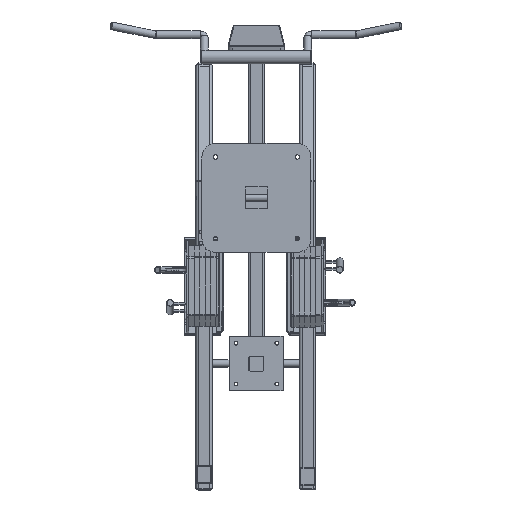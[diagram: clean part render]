
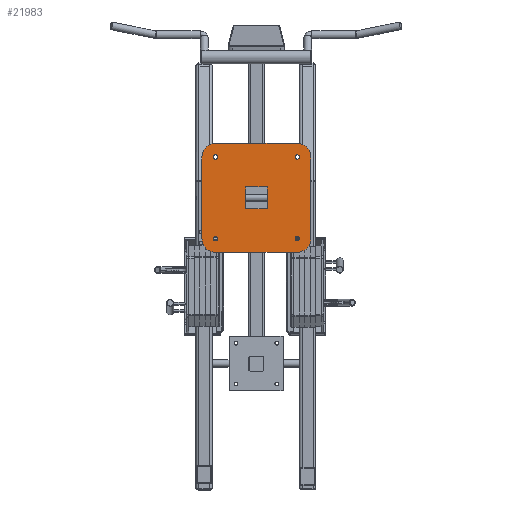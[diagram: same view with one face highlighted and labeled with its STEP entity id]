
A CAD part, front view. The second image highlights one B-rep face of the part: STEP entity #21983.
In plain terms, the highlighted planar face has unit normal (0, -1, 0).
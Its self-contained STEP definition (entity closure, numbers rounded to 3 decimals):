
#472=FACE_BOUND('',#3193,.T.);
#473=FACE_BOUND('',#3194,.T.);
#474=FACE_BOUND('',#3195,.T.);
#475=FACE_BOUND('',#3196,.T.);
#476=FACE_BOUND('',#3197,.T.);
#854=PLANE('',#23895);
#1797=FACE_OUTER_BOUND('',#3192,.T.);
#3192=EDGE_LOOP('',(#17161,#17162,#17163,#17164,#17165,#17166,#17167,#17168));
#3193=EDGE_LOOP('',(#17169));
#3194=EDGE_LOOP('',(#17170));
#3195=EDGE_LOOP('',(#17171,#17172,#17173,#17174));
#3196=EDGE_LOOP('',(#17175));
#3197=EDGE_LOOP('',(#17176));
#4874=LINE('',#35009,#6876);
#4880=LINE('',#35022,#6882);
#4884=LINE('',#35031,#6886);
#4891=LINE('',#35060,#6893);
#4894=LINE('',#35074,#6896);
#4895=LINE('',#35076,#6897);
#4896=LINE('',#35078,#6898);
#4897=LINE('',#35079,#6899);
#6876=VECTOR('',#28176,300.);
#6882=VECTOR('',#28184,300.);
#6886=VECTOR('',#28190,300.);
#6893=VECTOR('',#28217,300.);
#6896=VECTOR('',#28234,80.);
#6897=VECTOR('',#28235,80.);
#6898=VECTOR('',#28236,80.);
#6899=VECTOR('',#28237,80.);
#8577=CIRCLE('',#23896,50.);
#8578=CIRCLE('',#23897,50.);
#8579=CIRCLE('',#23898,50.);
#8580=CIRCLE('',#23899,50.);
#8581=CIRCLE('',#23900,8.);
#8582=CIRCLE('',#23901,8.);
#8583=CIRCLE('',#23902,8.);
#8584=CIRCLE('',#23903,8.);
#10059=VERTEX_POINT('',#35007);
#10060=VERTEX_POINT('',#35008);
#10065=VERTEX_POINT('',#35019);
#10066=VERTEX_POINT('',#35021);
#10069=VERTEX_POINT('',#35028);
#10070=VERTEX_POINT('',#35030);
#10081=VERTEX_POINT('',#35058);
#10082=VERTEX_POINT('',#35059);
#10083=VERTEX_POINT('',#35068);
#10084=VERTEX_POINT('',#35070);
#10085=VERTEX_POINT('',#35072);
#10086=VERTEX_POINT('',#35073);
#10087=VERTEX_POINT('',#35075);
#10088=VERTEX_POINT('',#35077);
#10089=VERTEX_POINT('',#35080);
#10090=VERTEX_POINT('',#35082);
#12582=EDGE_CURVE('',#10059,#10060,#4874,.T.);
#12588=EDGE_CURVE('',#10065,#10066,#4880,.T.);
#12592=EDGE_CURVE('',#10070,#10069,#4884,.T.);
#12607=EDGE_CURVE('',#10081,#10082,#4891,.T.);
#12610=EDGE_CURVE('',#10060,#10082,#8577,.T.);
#12611=EDGE_CURVE('',#10081,#10066,#8578,.T.);
#12612=EDGE_CURVE('',#10065,#10070,#8579,.T.);
#12613=EDGE_CURVE('',#10069,#10059,#8580,.T.);
#12614=EDGE_CURVE('',#10083,#10083,#8581,.T.);
#12615=EDGE_CURVE('',#10084,#10084,#8582,.T.);
#12616=EDGE_CURVE('',#10085,#10086,#4894,.T.);
#12617=EDGE_CURVE('',#10087,#10085,#4895,.T.);
#12618=EDGE_CURVE('',#10088,#10087,#4896,.T.);
#12619=EDGE_CURVE('',#10086,#10088,#4897,.T.);
#12620=EDGE_CURVE('',#10089,#10089,#8583,.T.);
#12621=EDGE_CURVE('',#10090,#10090,#8584,.T.);
#17161=ORIENTED_EDGE('',*,*,#12582,.T.);
#17162=ORIENTED_EDGE('',*,*,#12610,.T.);
#17163=ORIENTED_EDGE('',*,*,#12607,.F.);
#17164=ORIENTED_EDGE('',*,*,#12611,.T.);
#17165=ORIENTED_EDGE('',*,*,#12588,.F.);
#17166=ORIENTED_EDGE('',*,*,#12612,.T.);
#17167=ORIENTED_EDGE('',*,*,#12592,.T.);
#17168=ORIENTED_EDGE('',*,*,#12613,.T.);
#17169=ORIENTED_EDGE('',*,*,#12614,.F.);
#17170=ORIENTED_EDGE('',*,*,#12615,.F.);
#17171=ORIENTED_EDGE('',*,*,#12616,.F.);
#17172=ORIENTED_EDGE('',*,*,#12617,.F.);
#17173=ORIENTED_EDGE('',*,*,#12618,.F.);
#17174=ORIENTED_EDGE('',*,*,#12619,.F.);
#17175=ORIENTED_EDGE('',*,*,#12620,.F.);
#17176=ORIENTED_EDGE('',*,*,#12621,.F.);
#21983=ADVANCED_FACE('',(#1797,#472,#473,#474,#475,#476),#854,.T.);
#23895=AXIS2_PLACEMENT_3D('',#35063,#28220,#28221);
#23896=AXIS2_PLACEMENT_3D('',#35064,#28222,#28223);
#23897=AXIS2_PLACEMENT_3D('',#35065,#28224,#28225);
#23898=AXIS2_PLACEMENT_3D('',#35066,#28226,#28227);
#23899=AXIS2_PLACEMENT_3D('',#35067,#28228,#28229);
#23900=AXIS2_PLACEMENT_3D('',#35069,#28230,#28231);
#23901=AXIS2_PLACEMENT_3D('',#35071,#28232,#28233);
#23902=AXIS2_PLACEMENT_3D('',#35081,#28238,#28239);
#23903=AXIS2_PLACEMENT_3D('',#35083,#28240,#28241);
#28176=DIRECTION('',(0.,0.,1.));
#28184=DIRECTION('',(0.,0.,1.));
#28190=DIRECTION('',(1.,0.,0.));
#28217=DIRECTION('',(1.,0.,0.));
#28220=DIRECTION('center_axis',(0.,-1.,0.));
#28221=DIRECTION('ref_axis',(0.,0.,
1.));
#28222=DIRECTION('center_axis',(0.,-1.,0.));
#28223=DIRECTION('ref_axis',(1.,0.,0.));
#28224=DIRECTION('center_axis',(0.,-1.,0.));
#28225=DIRECTION('ref_axis',(0.,0.,
1.));
#28226=DIRECTION('center_axis',(0.,-1.,0.));
#28227=DIRECTION('ref_axis',(-1.,0.,0.));
#28228=DIRECTION('center_axis',(0.,-1.,0.));
#28229=DIRECTION('ref_axis',(0.,0.,
-1.));
#28230=DIRECTION('center_axis',(0.,-1.,0.));
#28231=DIRECTION('ref_axis',(-1.,0.,0.));
#28232=DIRECTION('center_axis',(0.,-1.,0.));
#28233=DIRECTION('ref_axis',(-1.,0.,0.));
#28234=DIRECTION('',(0.,0.,-1.));
#28235=DIRECTION('',(-1.,0.,0.));
#28236=DIRECTION('',(0.,0.,1.));
#28237=DIRECTION('',(1.,0.,0.));
#28238=DIRECTION('center_axis',(0.,-1.,0.));
#28239=DIRECTION('ref_axis',(-1.,0.,0.));
#28240=DIRECTION('center_axis',(0.,-1.,0.));
#28241=DIRECTION('ref_axis',(-1.,0.,0.));
#35007=CARTESIAN_POINT('',(205.859,-874.27,-107.64));
#35008=CARTESIAN_POINT('',(205.859,-874.27,192.36));
#35009=CARTESIAN_POINT('',(205.859,-874.27,-107.64));
#35019=CARTESIAN_POINT('',(-194.141,-874.27,-107.64));
#35021=CARTESIAN_POINT('',(-194.141,-874.27,192.36));
#35022=CARTESIAN_POINT('',(-194.141,-874.27,-107.64));
#35028=CARTESIAN_POINT('',(155.859,-874.27,-157.64));
#35030=CARTESIAN_POINT('',(-144.141,-874.27,-157.64));
#35031=CARTESIAN_POINT('',(-144.141,-874.27,-157.64));
#35058=CARTESIAN_POINT('',(-144.141,-874.27,242.36));
#35059=CARTESIAN_POINT('',(155.859,-874.27,242.36));
#35060=CARTESIAN_POINT('',(-144.141,-874.27,242.36));
#35063=CARTESIAN_POINT('Origin',(209.859,-874.27,-161.64));
#35064=CARTESIAN_POINT('Origin',(155.859,-874.27,192.36));
#35065=CARTESIAN_POINT('Origin',(-144.141,-874.27,192.36));
#35066=CARTESIAN_POINT('Origin',(-144.141,-874.27,-107.64));
#35067=CARTESIAN_POINT('Origin',(155.859,-874.27,-107.64));
#35068=CARTESIAN_POINT('',(-136.141,-874.27,192.36));
#35069=CARTESIAN_POINT('Origin',(-144.141,-874.27,192.36));
#35070=CARTESIAN_POINT('',(163.859,-874.27,-107.64));
#35071=CARTESIAN_POINT('Origin',(155.859,-874.27,-107.64));
#35072=CARTESIAN_POINT('',(-34.141,-874.27,82.36));
#35073=CARTESIAN_POINT('',(-34.141,-874.27,2.36));
#35074=CARTESIAN_POINT('',(-34.141,-874.27,82.36));
#35075=CARTESIAN_POINT('',(45.859,-874.27,82.36));
#35076=CARTESIAN_POINT('',(45.859,-874.27,82.36));
#35077=CARTESIAN_POINT('',(45.859,-874.27,2.36));
#35078=CARTESIAN_POINT('',(45.859,-874.27,2.36));
#35079=CARTESIAN_POINT('',(-34.141,-874.27,2.36));
#35080=CARTESIAN_POINT('',(163.859,-874.27,192.36));
#35081=CARTESIAN_POINT('Origin',(155.859,-874.27,192.36));
#35082=CARTESIAN_POINT('',(-136.141,-874.27,-107.64));
#35083=CARTESIAN_POINT('Origin',(-144.141,-874.27,-107.64));
